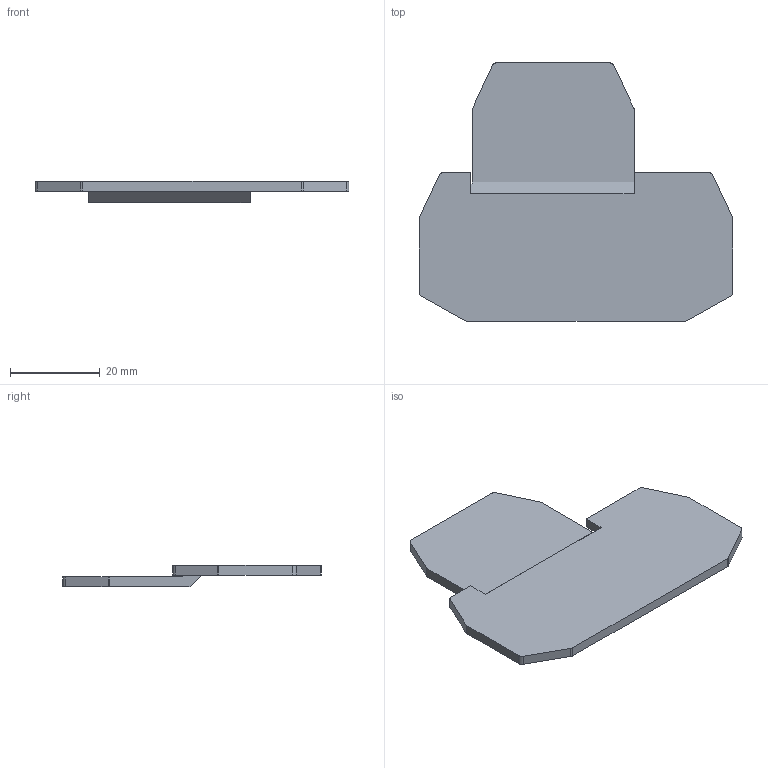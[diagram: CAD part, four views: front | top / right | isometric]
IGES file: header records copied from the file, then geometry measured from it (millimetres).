
Global section: file name: 3047293_d_uttb25_4_select.igs; native system: OneSpace Designer 3D IGES; preprocessor: 13.01  05-Feb-2005; date: 20060126.074250; units: millimetre
Bounding box: 69.9 x 57.5 x 4.78 mm (x, y, z)
Surface area: 6689.1 mm2 (no closed solid volume)
Topology: 0 solids, 0 shells, 34 faces, 252 edges, 252 vertices
Faces by surface type: bspline 34
